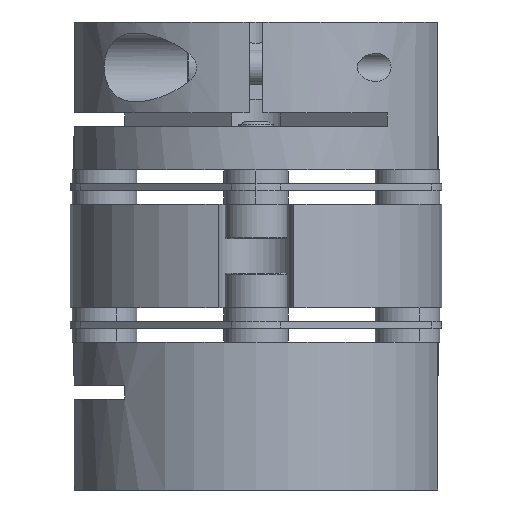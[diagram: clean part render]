
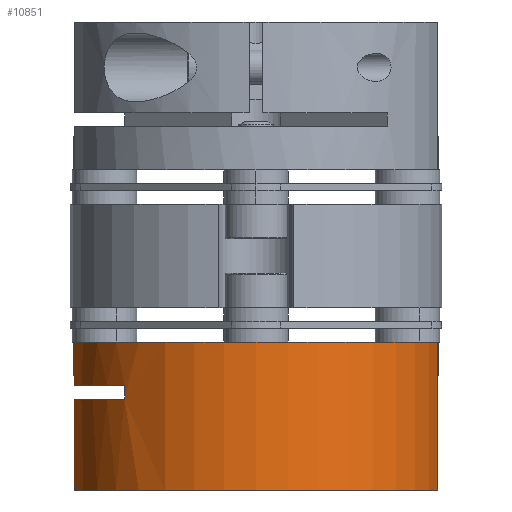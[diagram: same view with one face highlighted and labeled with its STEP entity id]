
A CAD part, front view. The second image highlights one B-rep face of the part: STEP entity #10851.
In plain terms, the highlighted cylindrical face has radius 13.5 mm (diameter 27 mm), a partial arc.
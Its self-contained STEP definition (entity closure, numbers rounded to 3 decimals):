
#54 = CIRCLE ( 'NONE', #15200, 13.5 ) ;
#105 = DIRECTION ( 'NONE',  ( -1., 0., 0. ) ) ;
#169 = AXIS2_PLACEMENT_3D ( 'NONE', #11177, #11105, #11100 ) ;
#336 = LINE ( 'NONE', #2293, #16812 ) ;
#919 = CARTESIAN_POINT ( 'NONE',  ( 10.22, 36.451, 92.455 ) ) ;
#1198 = CARTESIAN_POINT ( 'NONE',  ( 32.982, 43.247, 84.855 ) ) ;
#1264 = CARTESIAN_POINT ( 'NONE',  ( 32.982, 43.247, 95.605 ) ) ;
#1532 = CARTESIAN_POINT ( 'NONE',  ( 6.549, 43.247, 84.855 ) ) ;
#2131 = LINE ( 'NONE', #17070, #13854 ) ;
#2293 = CARTESIAN_POINT ( 'NONE',  ( 10.22, 36.451, 95.605 ) ) ;
#2564 = DIRECTION ( 'NONE',  ( 0., 0., -1. ) ) ;
#2585 = CARTESIAN_POINT ( 'NONE',  ( 6.549, 43.247, 91.455 ) ) ;
#2674 = VERTEX_POINT ( 'NONE', #1198 ) ;
#2715 = ORIENTED_EDGE ( 'NONE', *, *, #6918, .T. ) ;
#4095 = CARTESIAN_POINT ( 'NONE',  ( 19.766, 45.997, 95.605 ) ) ;
#4213 = ORIENTED_EDGE ( 'NONE', *, *, #9278, .F. ) ;
#5829 = DIRECTION ( 'NONE',  ( 0., 0., -1. ) ) ;
#6433 = ORIENTED_EDGE ( 'NONE', *, *, #9759, .F. ) ;
#6490 = DIRECTION ( 'NONE',  ( 0., 0., 1. ) ) ;
#6876 = AXIS2_PLACEMENT_3D ( 'NONE', #4095, #2564, #13804 ) ;
#6903 = ORIENTED_EDGE ( 'NONE', *, *, #9555, .T. ) ;
#6918 = EDGE_CURVE ( 'NONE', #14812, #2674, #16180, .T. ) ;
#7053 = DIRECTION ( 'NONE',  ( 0., 0., -1. ) ) ;
#7603 = DIRECTION ( 'NONE',  ( 0., 0., -1. ) ) ;
#7852 = VERTEX_POINT ( 'NONE', #2585 ) ;
#8232 = EDGE_CURVE ( 'NONE', #12922, #7852, #54, .T. ) ;
#9142 = EDGE_CURVE ( 'NONE', #17827, #17143, #2131, .T. ) ;
#9278 = EDGE_CURVE ( 'NONE', #11189, #17143, #19841, .T. ) ;
#9464 = EDGE_CURVE ( 'NONE', #11189, #12922, #336, .T. ) ;
#9555 = EDGE_CURVE ( 'NONE', #7852, #14812, #18294, .T. ) ;
#9607 = EDGE_CURVE ( 'NONE', #9653, #2674, #10569, .T. ) ;
#9653 = VERTEX_POINT ( 'NONE', #18887 ) ;
#9720 = DIRECTION ( 'NONE',  ( 0., 0., -1. ) ) ;
#9759 = EDGE_CURVE ( 'NONE', #17827, #9653, #18023, .T. ) ;
#9841 = VECTOR ( 'NONE', #5829, 1000. ) ;
#10569 = LINE ( 'NONE', #1264, #18543 ) ;
#10851 = ADVANCED_FACE ( 'NONE', ( #13710 ), #20153, .T. ) ;
#11100 = DIRECTION ( 'NONE',  ( 1., 0., 0. ) ) ;
#11105 = DIRECTION ( 'NONE',  ( 0., 0., 1. ) ) ;
#11177 = CARTESIAN_POINT ( 'NONE',  ( 19.766, 45.997, 84.855 ) ) ;
#11189 = VERTEX_POINT ( 'NONE', #919 ) ;
#11226 = ORIENTED_EDGE ( 'NONE', *, *, #8232, .T. ) ;
#11983 = CARTESIAN_POINT ( 'NONE',  ( 6.549, 43.247, 95.605 ) ) ;
#12147 = CARTESIAN_POINT ( 'NONE',  ( 6.549, 43.247, 95.605 ) ) ;
#12213 = CARTESIAN_POINT ( 'NONE',  ( 10.22, 36.451, 91.455 ) ) ;
#12225 = ORIENTED_EDGE ( 'NONE', *, *, #9464, .T. ) ;
#12922 = VERTEX_POINT ( 'NONE', #12213 ) ;
#13462 = ORIENTED_EDGE ( 'NONE', *, *, #9142, .T. ) ;
#13710 = FACE_OUTER_BOUND ( 'NONE', #18444, .T. ) ;
#13804 = DIRECTION ( 'NONE',  ( -1., 0., 0. ) ) ;
#13854 = VECTOR ( 'NONE', #18704, 1000. ) ;
#14812 = VERTEX_POINT ( 'NONE', #1532 ) ;
#14953 = ORIENTED_EDGE ( 'NONE', *, *, #9607, .F. ) ;
#15200 = AXIS2_PLACEMENT_3D ( 'NONE', #18007, #17939, #17882 ) ;
#16084 = CARTESIAN_POINT ( 'NONE',  ( 19.766, 45.997, 95.605 ) ) ;
#16180 = CIRCLE ( 'NONE', #169, 13.5 ) ;
#16526 = AXIS2_PLACEMENT_3D ( 'NONE', #19259, #9720, #105 ) ;
#16812 = VECTOR ( 'NONE', #7053, 1000. ) ;
#17070 = CARTESIAN_POINT ( 'NONE',  ( 6.549, 43.247, 95.605 ) ) ;
#17143 = VERTEX_POINT ( 'NONE', #17261 ) ;
#17261 = CARTESIAN_POINT ( 'NONE',  ( 6.549, 43.247, 92.455 ) ) ;
#17677 = DIRECTION ( 'NONE',  ( 1., 0., 0. ) ) ;
#17827 = VERTEX_POINT ( 'NONE', #11983 ) ;
#17882 = DIRECTION ( 'NONE',  ( -1., 0., 0. ) ) ;
#17939 = DIRECTION ( 'NONE',  ( 0., 0., -1. ) ) ;
#18007 = CARTESIAN_POINT ( 'NONE',  ( 19.766, 45.997, 91.455 ) ) ;
#18023 = CIRCLE ( 'NONE', #18844, 13.5 ) ;
#18294 = LINE ( 'NONE', #12147, #9841 ) ;
#18444 = EDGE_LOOP ( 'NONE', ( #4213, #12225, #11226, #6903, #2715, #14953, #6433, #13462 ) ) ;
#18543 = VECTOR ( 'NONE', #7603, 1000. ) ;
#18704 = DIRECTION ( 'NONE',  ( 0., 0., -1. ) ) ;
#18844 = AXIS2_PLACEMENT_3D ( 'NONE', #16084, #6490, #17677 ) ;
#18887 = CARTESIAN_POINT ( 'NONE',  ( 32.982, 43.247, 95.605 ) ) ;
#19259 = CARTESIAN_POINT ( 'NONE',  ( 19.766, 45.997, 92.455 ) ) ;
#19841 = CIRCLE ( 'NONE', #16526, 13.5 ) ;
#20153 = CYLINDRICAL_SURFACE ( 'NONE', #6876, 13.5 ) ;
